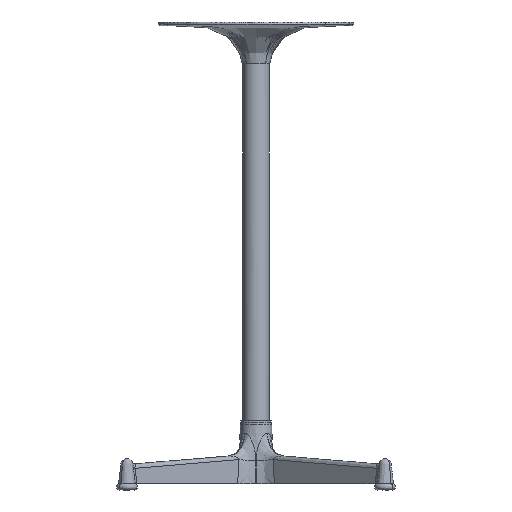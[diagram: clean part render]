
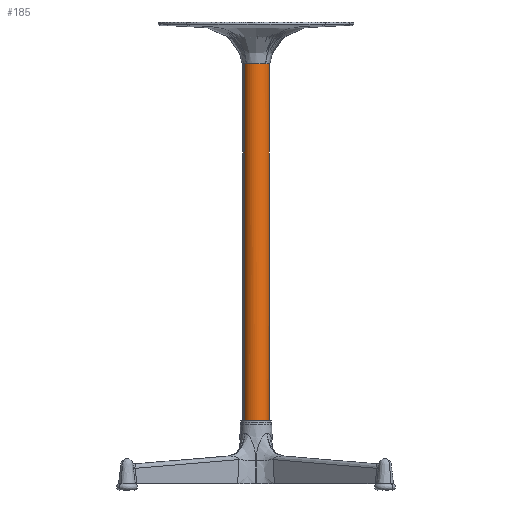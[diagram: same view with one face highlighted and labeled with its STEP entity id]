
A CAD part, front view. The second image highlights one B-rep face of the part: STEP entity #185.
In plain terms, the highlighted free-form (B-spline) face has degree [2, 1] with [9, 2] control points.
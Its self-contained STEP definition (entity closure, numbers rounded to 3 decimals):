
#185=ADVANCED_FACE('',(#360),#2749,.T.);
#360=FACE_OUTER_BOUND('',#543,.T.);
#543=EDGE_LOOP('',(#1392,#1393,#1394,#1395,#1396,#1397));
#1392=ORIENTED_EDGE('',*,*,#1859,.T.);
#1393=ORIENTED_EDGE('',*,*,#1508,.F.);
#1394=ORIENTED_EDGE('',*,*,#1539,.F.);
#1395=ORIENTED_EDGE('',*,*,#1581,.F.);
#1396=ORIENTED_EDGE('',*,*,#1858,.F.);
#1397=ORIENTED_EDGE('',*,*,#1862,.F.);
#1508=EDGE_CURVE('',#2370,#2567,#1907,.T.);
#1539=EDGE_CURVE('',#2388,#2370,#1914,.T.);
#1581=EDGE_CURVE('',#2566,#2388,#1927,.T.);
#1858=EDGE_CURVE('',#2573,#2566,#2324,.T.);
#1859=EDGE_CURVE('',#2574,#2567,#2325,.T.);
#1862=EDGE_CURVE('',#2574,#2573,#1987,.T.);
#1907=(
BOUNDED_CURVE()
B_SPLINE_CURVE(2,(#11734,#11735,#11736),.UNSPECIFIED.,.F.,.F.)
B_SPLINE_CURVE_WITH_KNOTS((3,3),(0.,30.468),.UNSPECIFIED.)
CURVE()
GEOMETRIC_REPRESENTATION_ITEM()
RATIONAL_B_SPLINE_CURVE((1.,0.804,1.))
REPRESENTATION_ITEM('')
);
#1914=(
BOUNDED_CURVE()
B_SPLINE_CURVE(2,(#11957,#11958,#11959),.UNSPECIFIED.,.F.,.F.)
B_SPLINE_CURVE_WITH_KNOTS((3,3),(0.,38.085),.UNSPECIFIED.)
CURVE()
GEOMETRIC_REPRESENTATION_ITEM()
RATIONAL_B_SPLINE_CURVE((1.,0.707,1.))
REPRESENTATION_ITEM('')
);
#1927=(
BOUNDED_CURVE()
B_SPLINE_CURVE(2,(#12294,#12295,#12296),.UNSPECIFIED.,.F.,.F.)
B_SPLINE_CURVE_WITH_KNOTS((3,3),(-7.617,0.),.UNSPECIFIED.)
CURVE()
GEOMETRIC_REPRESENTATION_ITEM()
RATIONAL_B_SPLINE_CURVE((1.,0.989,1.))
REPRESENTATION_ITEM('')
);
#1987=(
BOUNDED_CURVE()
B_SPLINE_CURVE(2,(#14703,#14704,#14705,#14706,#14707,#14708,#14709),
 .UNSPECIFIED.,.F.,.F.)
B_SPLINE_CURVE_WITH_KNOTS((3,2,2,3),(-68.4,-38.,
0.,7.6),.UNSPECIFIED.)
CURVE()
GEOMETRIC_REPRESENTATION_ITEM()
RATIONAL_B_SPLINE_CURVE((1.,0.804,1.,0.707,1.,0.989,
1.))
REPRESENTATION_ITEM('')
);
#2324=B_SPLINE_CURVE_WITH_KNOTS('',1,(#14679,#14680),.UNSPECIFIED.,.F.,
 .F.,(2,2),(60.271,571.2),.UNSPECIFIED.);
#2325=B_SPLINE_CURVE_WITH_KNOTS('',1,(#14681,#14682),.UNSPECIFIED.,.F.,
 .F.,(2,2),(117.511,628.44),.UNSPECIFIED.);
#2370=VERTEX_POINT('',#11025);
#2388=VERTEX_POINT('',#11043);
#2566=VERTEX_POINT('',#11221);
#2567=VERTEX_POINT('',#11222);
#2573=VERTEX_POINT('',#11228);
#2574=VERTEX_POINT('',#11229);
#2749=(
BOUNDED_SURFACE()
B_SPLINE_SURFACE(2,1,((#10374,#10375),(#10376,#10377),(#10378,#10379),(#10380,
#10381),(#10382,#10383),(#10384,#10385),(#10386,#10387),(#10388,#10389),
(#10390,#10391)),.UNSPECIFIED.,.T.,.F.,.F.)
B_SPLINE_SURFACE_WITH_KNOTS((3,2,2,2,3),(2,2),(0.,38.11,76.22,
114.33,152.44),(0.,685.68),.UNSPECIFIED.)
GEOMETRIC_REPRESENTATION_ITEM()
RATIONAL_B_SPLINE_SURFACE(((1.,1.),(0.707,0.707),
(1.,1.),(0.707,0.707),(1.,1.),(0.707,
0.707),(1.,1.),(0.707,0.707),(1.,1.)))
REPRESENTATION_ITEM('')
SURFACE()
);
#10374=CARTESIAN_POINT('',(16.407,12.023,-18.24));
#10375=CARTESIAN_POINT('',(16.46,12.051,667.44));
#10376=CARTESIAN_POINT('',(7.514,28.808,-18.24));
#10377=CARTESIAN_POINT('',(7.539,28.889,667.44));
#10378=CARTESIAN_POINT('',(-9.271,19.916,-18.24));
#10379=CARTESIAN_POINT('',(-9.299,19.969,667.44));
#10380=CARTESIAN_POINT('',(-26.056,11.023,-18.24));
#10381=CARTESIAN_POINT('',(-26.137,11.048,667.44));
#10382=CARTESIAN_POINT('',(-17.163,-5.762,-18.24));
#10383=CARTESIAN_POINT('',(-17.216,-5.79,667.44));
#10384=CARTESIAN_POINT('',(-8.271,-22.547,-18.24));
#10385=CARTESIAN_POINT('',(-8.296,-22.628,667.44));
#10386=CARTESIAN_POINT('',(8.514,-13.654,-18.24));
#10387=CARTESIAN_POINT('',(8.542,-13.707,667.44));
#10388=CARTESIAN_POINT('',(25.299,-4.762,-18.24));
#10389=CARTESIAN_POINT('',(25.38,-4.787,667.44));
#10390=CARTESIAN_POINT('',(16.407,12.023,-18.24));
#10391=CARTESIAN_POINT('',(16.46,12.051,667.44));
#11025=CARTESIAN_POINT('',(13.087,-10.334,610.2));
#11043=CARTESIAN_POINT('',(-13.843,-10.334,610.2));
#11221=CARTESIAN_POINT('',(-17.212,-5.787,610.2));
#11222=CARTESIAN_POINT('',(16.455,12.049,610.2));
#11228=CARTESIAN_POINT('',(-17.17,-5.765,99.271));
#11229=CARTESIAN_POINT('',(16.413,12.027,99.271));
#11734=CARTESIAN_POINT('',(13.087,-10.334,610.2));
#11735=CARTESIAN_POINT('',(23.038,-0.385,610.2));
#11736=CARTESIAN_POINT('',(16.455,12.049,610.2));
#11957=CARTESIAN_POINT('',(-13.843,-10.334,610.2));
#11958=CARTESIAN_POINT('',(-0.378,-23.799,610.2));
#11959=CARTESIAN_POINT('',(13.087,-10.334,610.2));
#12294=CARTESIAN_POINT('',(-17.212,-5.787,610.2));
#12295=CARTESIAN_POINT('',(-15.869,-8.313,610.2));
#12296=CARTESIAN_POINT('',(-13.843,-10.334,610.2));
#14679=CARTESIAN_POINT('',(-17.17,-5.765,99.271));
#14680=CARTESIAN_POINT('',(-17.212,-5.787,610.2));
#14681=CARTESIAN_POINT('',(16.413,12.027,99.271));
#14682=CARTESIAN_POINT('',(16.455,12.049,610.2));
#14703=CARTESIAN_POINT('',(16.413,12.027,99.271));
#14704=CARTESIAN_POINT('',(22.985,-0.377,99.271));
#14705=CARTESIAN_POINT('',(13.058,-10.304,99.271));
#14706=CARTESIAN_POINT('',(-0.378,-23.739,99.271));
#14707=CARTESIAN_POINT('',(-13.813,-10.304,99.271));
#14708=CARTESIAN_POINT('',(-15.833,-8.287,99.271));
#14709=CARTESIAN_POINT('',(-17.17,-5.765,99.271));
